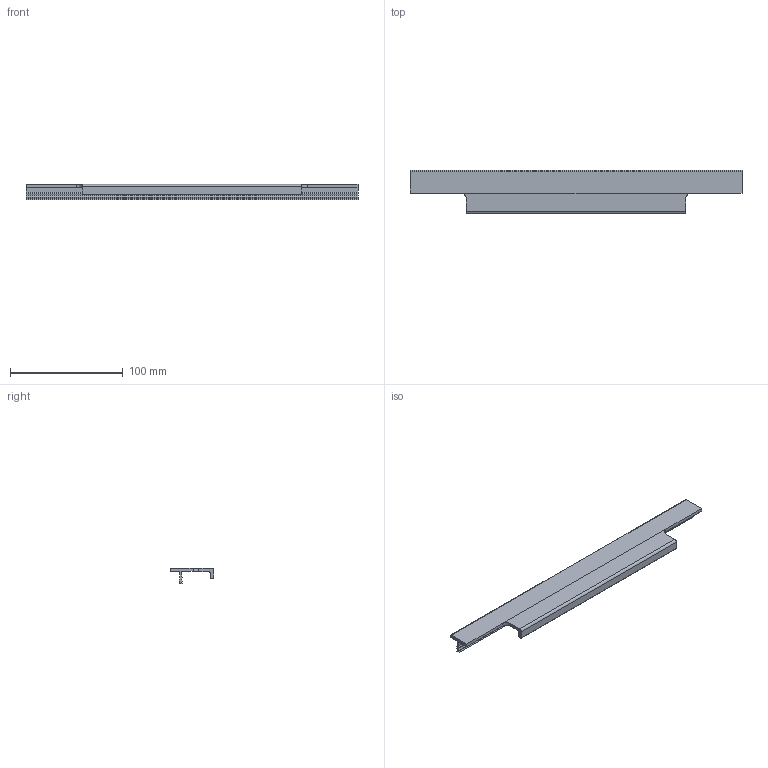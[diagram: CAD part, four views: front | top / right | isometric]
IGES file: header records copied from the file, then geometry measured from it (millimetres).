
Start section: Data from Parasolid IGES Translator 15.0.47, Copyright(c) 2006 Siemens P LM Software. All Rights Reserved.
Global section: file name: 9105815.igs; native system:  By UGS Corp.; preprocessor: XPlus GENERIC/IGES 3.0; author: Noname; organization: Noname; date: 20140122.180034; units: millimetre
Bounding box: 295 x 39 x 14 mm (x, y, z)
Surface area: 30134.3 mm2 (no closed solid volume)
Topology: 0 solids, 0 shells, 40 faces, 224 edges, 224 vertices
Faces by surface type: extrusion 30, revolution 10
